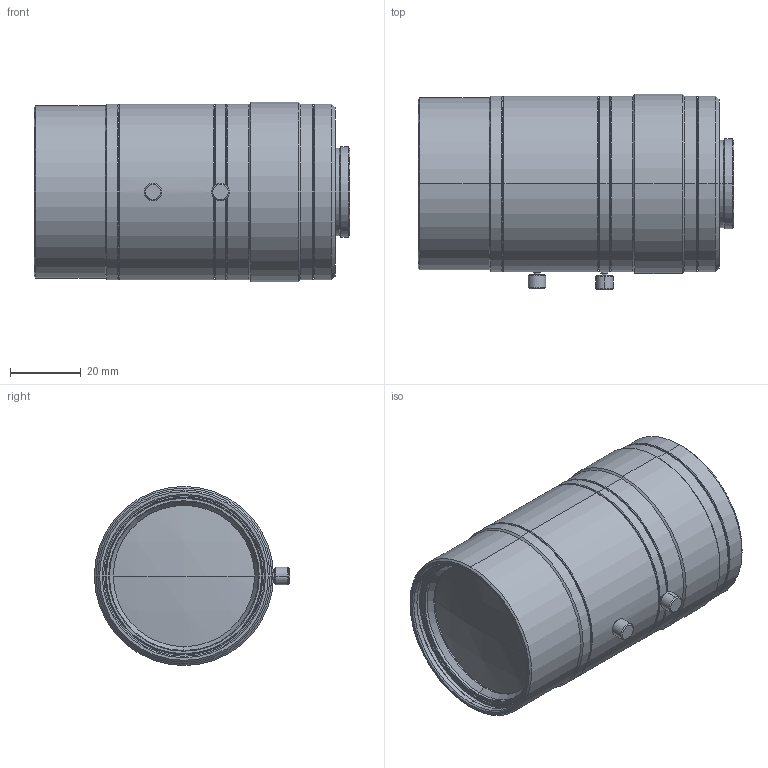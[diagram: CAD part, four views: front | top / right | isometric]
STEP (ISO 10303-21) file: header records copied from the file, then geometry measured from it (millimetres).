
FILE_DESCRIPTION (( 'STEP AP203' ), '1' );
FILE_NAME ('VS-LLD30.STEP', '2016-05-13T06:05:41', ( 'miura_vst' ), ( '' ), 'SwSTEP 2.0', 'SolidWorks 2016', '' );
FILE_SCHEMA (( 'CONFIG_CONTROL_DESIGN' ));
Length unit declared in the file: millimetre
Products named in the file (1): VS-LLD30
Bounding box: 88.97 x 55.05 x 50.5 mm (x, y, z)
Volume: 150801 mm3; surface area: 23606.5 mm2
Topology: 1 solids, 1 shells, 168 faces, 338 edges, 196 vertices
Faces by surface type: cone 86, cylinder 54, plane 24, sphere 4
Entity records: 4485 total; most frequent: DIRECTION 866, CARTESIAN_POINT 767, ORIENTED_EDGE 676, AXIS2_PLACEMENT_3D 363, EDGE_CURVE 338, VERTEX_POINT 196, CIRCLE 194, EDGE_LOOP 192
